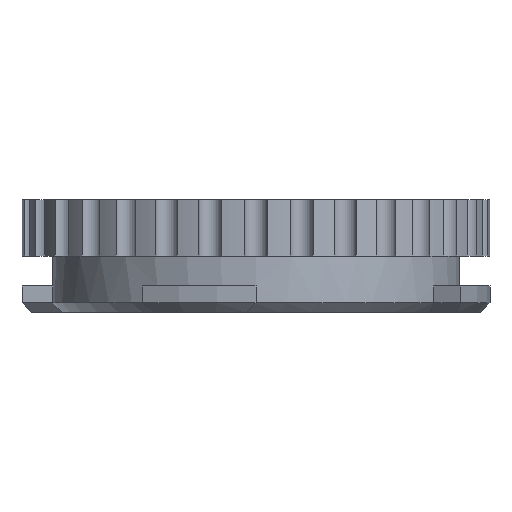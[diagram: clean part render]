
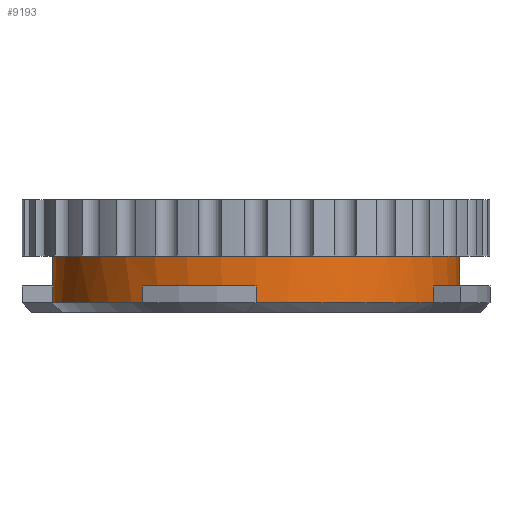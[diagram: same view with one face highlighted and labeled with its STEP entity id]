
A CAD part, front view. The second image highlights one B-rep face of the part: STEP entity #9193.
In plain terms, the highlighted cylindrical face has radius 13.787 mm (diameter 27.575 mm), a partial arc.
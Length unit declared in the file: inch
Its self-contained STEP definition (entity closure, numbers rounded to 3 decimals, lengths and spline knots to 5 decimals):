
#89 = EDGE_CURVE ( 'NONE', #20127, #8532, #18839, .T. ) ;
#308 = EDGE_CURVE ( 'NONE', #5312, #12241, #942, .T. ) ;
#525 = CARTESIAN_POINT ( 'NONE',  ( -0.54281, 0., 0.15 ) ) ;
#637 = VERTEX_POINT ( 'NONE', #12641 ) ;
#706 = AXIS2_PLACEMENT_3D ( 'NONE', #18102, #13209, #19657 ) ;
#942 = CIRCLE ( 'NONE', #706, 0.54281 ) ;
#1260 = CARTESIAN_POINT ( 'NONE',  ( 0.54281, 0., 0.07 ) ) ;
#1270 = ORIENTED_EDGE ( 'NONE', *, *, #12707, .T. ) ;
#2116 = EDGE_LOOP ( 'NONE', ( #6272, #3878, #18298, #1270, #19262, #7680, #16090, #2914, #6647, #11156, #8804 ) ) ;
#2119 = DIRECTION ( 'NONE',  ( 0., 0., -1. ) ) ;
#2365 = CARTESIAN_POINT ( 'NONE',  ( 0., -0.54281, 0.07 ) ) ;
#2779 = AXIS2_PLACEMENT_3D ( 'NONE', #13829, #9072, #16944 ) ;
#2914 = ORIENTED_EDGE ( 'NONE', *, *, #14320, .T. ) ;
#2946 = VERTEX_POINT ( 'NONE', #1260 ) ;
#2983 = CIRCLE ( 'NONE', #11128, 0.54281 ) ;
#3191 = VECTOR ( 'NONE', #9758, 39.37008 ) ;
#3409 = DIRECTION ( 'NONE',  ( 0., 0., 1. ) ) ;
#3463 = LINE ( 'NONE', #12280, #5666 ) ;
#3859 = VERTEX_POINT ( 'NONE', #18273 ) ;
#3878 = ORIENTED_EDGE ( 'NONE', *, *, #13330, .F. ) ;
#4436 = LINE ( 'NONE', #16381, #3191 ) ;
#5240 = FACE_OUTER_BOUND ( 'NONE', #2116, .T. ) ;
#5312 = VERTEX_POINT ( 'NONE', #16387 ) ;
#5343 = VERTEX_POINT ( 'NONE', #13116 ) ;
#5344 = LINE ( 'NONE', #5359, #9082 ) ;
#5359 = CARTESIAN_POINT ( 'NONE',  ( 0.47476, -0.26316, 0.15 ) ) ;
#5457 = DIRECTION ( 'NONE',  ( 0., -1., 0. ) ) ;
#5501 = DIRECTION ( 'NONE',  ( 0., 0., 1. ) ) ;
#5666 = VECTOR ( 'NONE', #5851, 39.37008 ) ;
#5851 = DIRECTION ( 'NONE',  ( 0., 0., -1. ) ) ;
#6143 = EDGE_CURVE ( 'NONE', #8375, #2946, #12228, .T. ) ;
#6272 = ORIENTED_EDGE ( 'NONE', *, *, #6143, .F. ) ;
#6412 = VECTOR ( 'NONE', #2119, 39.37008 ) ;
#6647 = ORIENTED_EDGE ( 'NONE', *, *, #308, .T. ) ;
#6684 = CARTESIAN_POINT ( 'NONE',  ( 0.47476, -0.26316, 0.02461 ) ) ;
#7535 = VECTOR ( 'NONE', #13043, 39.37008 ) ;
#7680 = ORIENTED_EDGE ( 'NONE', *, *, #10315, .T. ) ;
#7989 = DIRECTION ( 'NONE',  ( 0., 0., 1. ) ) ;
#8050 = DIRECTION ( 'NONE',  ( 1., 0., 0. ) ) ;
#8375 = VERTEX_POINT ( 'NONE', #12962 ) ;
#8520 = AXIS2_PLACEMENT_3D ( 'NONE', #17978, #5501, #19836 ) ;
#8532 = VERTEX_POINT ( 'NONE', #16586 ) ;
#8804 = ORIENTED_EDGE ( 'NONE', *, *, #17651, .T. ) ;
#9072 = DIRECTION ( 'NONE',  ( 0., 0., -1. ) ) ;
#9082 = VECTOR ( 'NONE', #10275, 39.37008 ) ;
#9193 = ADVANCED_FACE ( 'NONE', ( #5240 ), #13382, .T. ) ;
#9686 = CARTESIAN_POINT ( 'NONE',  ( -0.54281, 0., 0.02461 ) ) ;
#9758 = DIRECTION ( 'NONE',  ( 0., 0., -1. ) ) ;
#9852 = DIRECTION ( 'NONE',  ( 1., 0., 0. ) ) ;
#10098 = AXIS2_PLACEMENT_3D ( 'NONE', #14450, #12792, #9852 ) ;
#10275 = DIRECTION ( 'NONE',  ( 0., 0., 1. ) ) ;
#10315 = EDGE_CURVE ( 'NONE', #8532, #3859, #17625, .T. ) ;
#10633 = LINE ( 'NONE', #525, #6412 ) ;
#11128 = AXIS2_PLACEMENT_3D ( 'NONE', #17981, #13181, #5457 ) ;
#11156 = ORIENTED_EDGE ( 'NONE', *, *, #16949, .T. ) ;
#11175 = CIRCLE ( 'NONE', #8520, 0.54281 ) ;
#12228 = LINE ( 'NONE', #16179, #7535 ) ;
#12241 = VERTEX_POINT ( 'NONE', #6684 ) ;
#12280 = CARTESIAN_POINT ( 'NONE',  ( 0., -0.54281, 0.15 ) ) ;
#12331 = EDGE_CURVE ( 'NONE', #637, #5343, #10633, .T. ) ;
#12641 = CARTESIAN_POINT ( 'NONE',  ( -0.54281, 0., 0.15 ) ) ;
#12707 = EDGE_CURVE ( 'NONE', #5343, #20127, #4436, .T. ) ;
#12792 = DIRECTION ( 'NONE',  ( 0., 0., 1. ) ) ;
#12887 = VERTEX_POINT ( 'NONE', #2365 ) ;
#12923 = CARTESIAN_POINT ( 'NONE',  ( 0., 0., 0.02461 ) ) ;
#12962 = CARTESIAN_POINT ( 'NONE',  ( 0.54281, 0., 0.15 ) ) ;
#13043 = DIRECTION ( 'NONE',  ( 0., 0., -1. ) ) ;
#13116 = CARTESIAN_POINT ( 'NONE',  ( -0.54281, 0., 0.07 ) ) ;
#13148 = VERTEX_POINT ( 'NONE', #20506 ) ;
#13181 = DIRECTION ( 'NONE',  ( 0., 0., 1. ) ) ;
#13209 = DIRECTION ( 'NONE',  ( 0., 0., 1. ) ) ;
#13330 = EDGE_CURVE ( 'NONE', #637, #8375, #11175, .T. ) ;
#13382 = CYLINDRICAL_SURFACE ( 'NONE', #2779, 0.54281 ) ;
#13829 = CARTESIAN_POINT ( 'NONE',  ( 0., 0., 0.15 ) ) ;
#14085 = EDGE_CURVE ( 'NONE', #3859, #12887, #2983, .T. ) ;
#14320 = EDGE_CURVE ( 'NONE', #12887, #5312, #3463, .T. ) ;
#14450 = CARTESIAN_POINT ( 'NONE',  ( 0., 0., 0.07 ) ) ;
#14607 = CARTESIAN_POINT ( 'NONE',  ( -0.26316, -0.47476, 0.15 ) ) ;
#16090 = ORIENTED_EDGE ( 'NONE', *, *, #14085, .T. ) ;
#16179 = CARTESIAN_POINT ( 'NONE',  ( 0.54281, 0., 0.15 ) ) ;
#16381 = CARTESIAN_POINT ( 'NONE',  ( -0.54281, 0., 0.15 ) ) ;
#16387 = CARTESIAN_POINT ( 'NONE',  ( 0., -0.54281, 0.02461 ) ) ;
#16586 = CARTESIAN_POINT ( 'NONE',  ( -0.26316, -0.47476, 0.02461 ) ) ;
#16731 = CIRCLE ( 'NONE', #10098, 0.54281 ) ;
#16944 = DIRECTION ( 'NONE',  ( -1., 0., 0. ) ) ;
#16949 = EDGE_CURVE ( 'NONE', #12241, #13148, #5344, .T. ) ;
#17625 = LINE ( 'NONE', #14607, #17855 ) ;
#17651 = EDGE_CURVE ( 'NONE', #13148, #2946, #16731, .T. ) ;
#17855 = VECTOR ( 'NONE', #3409, 39.37008 ) ;
#17978 = CARTESIAN_POINT ( 'NONE',  ( 0., 0., 0.15 ) ) ;
#17981 = CARTESIAN_POINT ( 'NONE',  ( 0., 0., 0.07 ) ) ;
#18102 = CARTESIAN_POINT ( 'NONE',  ( 0., 0., 0.02461 ) ) ;
#18273 = CARTESIAN_POINT ( 'NONE',  ( -0.26316, -0.47476, 0.07 ) ) ;
#18298 = ORIENTED_EDGE ( 'NONE', *, *, #12331, .T. ) ;
#18839 = CIRCLE ( 'NONE', #18899, 0.54281 ) ;
#18899 = AXIS2_PLACEMENT_3D ( 'NONE', #12923, #7989, #8050 ) ;
#19262 = ORIENTED_EDGE ( 'NONE', *, *, #89, .T. ) ;
#19657 = DIRECTION ( 'NONE',  ( 1., 0., 0. ) ) ;
#19836 = DIRECTION ( 'NONE',  ( 1., 0., 0. ) ) ;
#20127 = VERTEX_POINT ( 'NONE', #9686 ) ;
#20506 = CARTESIAN_POINT ( 'NONE',  ( 0.47476, -0.26316, 0.07 ) ) ;
